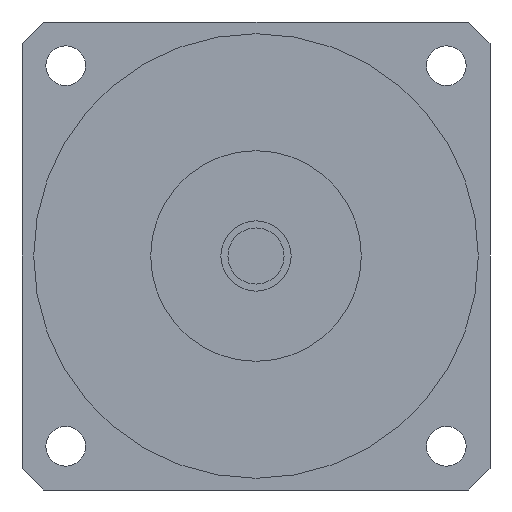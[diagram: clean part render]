
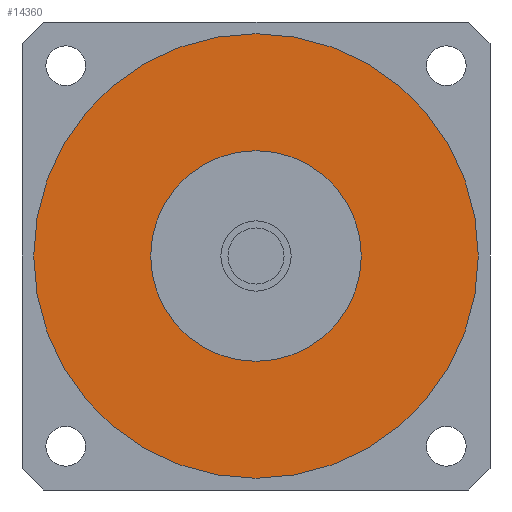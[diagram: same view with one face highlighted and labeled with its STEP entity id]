
A CAD part, left-side view. The second image highlights one B-rep face of the part: STEP entity #14360.
In plain terms, the highlighted planar face has unit normal (-1, 0, 0) as drawn and (0, 0, -1) by its records, which use the part's own axes.
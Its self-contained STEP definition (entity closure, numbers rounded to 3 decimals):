
#13780=CARTESIAN_POINT('',(47.5,0.,-38.7));
#13790=VERTEX_POINT('',#13780);
#13880=CARTESIAN_POINT('',(-47.5,0.,-38.7));
#13890=VERTEX_POINT('',#13880);
#13920=CARTESIAN_POINT('',(0.,0.,
-38.7));
#13930=DIRECTION('',(0.,0.,1.));
#13940=DIRECTION('',(0.,1.,0.));
#13950=AXIS2_PLACEMENT_3D('',#13920,#13930,#13940);
#13960=CIRCLE('',#13950,47.5);
#13970=CARTESIAN_POINT('',(0.,47.5,-38.7));
#13980=VERTEX_POINT('',#13970);
#13990=EDGE_CURVE('',#13980,#13890,#13960,.T.);
#14010=EDGE_CURVE('',#13790,#13980,#13960,.T.);
#14060=CARTESIAN_POINT('',(0.,0.,
-38.7));
#14070=DIRECTION('',(0.,0.,1.));
#14080=DIRECTION('',(-1.,0.,0.));
#14090=AXIS2_PLACEMENT_3D('',#14060,#14070,#14080);
#14100=PLANE('',#14090);
#14110=ORIENTED_EDGE('',*,*,#13990,.F.);
#14120=EDGE_CURVE('',#13890,#13790,#13960,.T.);
#14130=ORIENTED_EDGE('',*,*,#14120,.F.);
#14140=ORIENTED_EDGE('',*,*,#14010,.F.);
#14150=EDGE_LOOP('',(#14140,#14130,#14110));
#14160=FACE_OUTER_BOUND('',#14150,.T.);
#14170=CARTESIAN_POINT('',(0.,0.,
-38.7));
#14180=DIRECTION('',(0.,0.,1.));
#14190=DIRECTION('',(0.,1.,0.));
#14200=AXIS2_PLACEMENT_3D('',#14170,#14180,#14190);
#14210=CIRCLE('',#14200,22.5);
#14220=CARTESIAN_POINT('',(-22.5,0.,-38.7));
#14230=VERTEX_POINT('',#14220);
#14240=CARTESIAN_POINT('',(22.5,0.,-38.7));
#14250=VERTEX_POINT('',#14240);
#14260=EDGE_CURVE('',#14230,#14250,#14210,.T.);
#14270=ORIENTED_EDGE('',*,*,#14260,.T.);
#14280=CARTESIAN_POINT('',(0.,22.5,-38.7));
#14290=VERTEX_POINT('',#14280);
#14300=EDGE_CURVE('',#14290,#14230,#14210,.T.);
#14310=ORIENTED_EDGE('',*,*,#14300,.T.);
#14320=EDGE_CURVE('',#14250,#14290,#14210,.T.);
#14330=ORIENTED_EDGE('',*,*,#14320,.T.);
#14340=EDGE_LOOP('',(#14330,#14310,#14270));
#14350=FACE_BOUND('',#14340,.T.);
#14360=ADVANCED_FACE('',(#14160,#14350),#14100,.F.);
